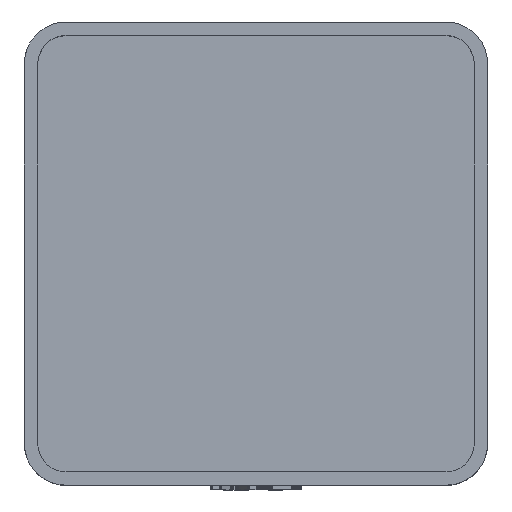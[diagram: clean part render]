
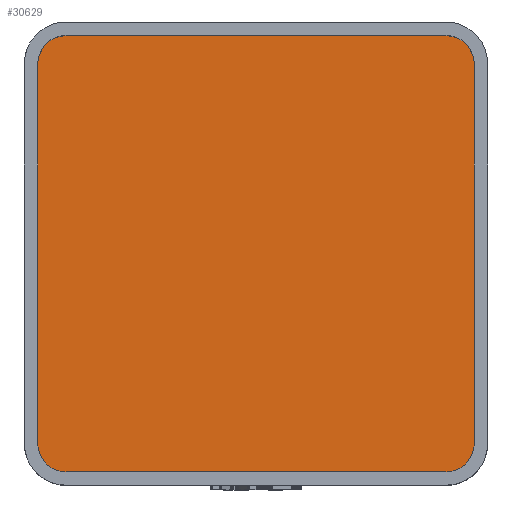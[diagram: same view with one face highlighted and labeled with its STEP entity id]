
A CAD part, top view. The second image highlights one B-rep face of the part: STEP entity #30629.
In plain terms, the highlighted planar face has unit normal (0, 0, 1).
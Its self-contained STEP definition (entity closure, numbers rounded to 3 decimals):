
#1442 = PLANE('',#1443);
#1443 = AXIS2_PLACEMENT_3D('',#1444,#1445,#1446);
#1444 = CARTESIAN_POINT('',(-19.55,-17.,4.75));
#1445 = DIRECTION('',(-1.,0.,0.));
#1446 = DIRECTION('',(0.,1.,0.));
#1474 = CYLINDRICAL_SURFACE('',#1475,2.55);
#1475 = AXIS2_PLACEMENT_3D('',#1476,#1477,#1478);
#1476 = CARTESIAN_POINT('',(-17.,17.,4.75));
#1477 = DIRECTION('',(-0.,-0.,-1.));
#1478 = DIRECTION('',(1.,0.,0.));
#1501 = PLANE('',#1502);
#1502 = AXIS2_PLACEMENT_3D('',#1503,#1504,#1505);
#1503 = CARTESIAN_POINT('',(-17.,19.55,4.75));
#1504 = DIRECTION('',(0.,1.,0.));
#1505 = DIRECTION('',(1.,0.,0.));
#1533 = CYLINDRICAL_SURFACE('',#1534,2.55);
#1534 = AXIS2_PLACEMENT_3D('',#1535,#1536,#1537);
#1535 = CARTESIAN_POINT('',(17.,17.,4.75));
#1536 = DIRECTION('',(-0.,-0.,-1.));
#1537 = DIRECTION('',(1.,0.,0.));
#1560 = PLANE('',#1561);
#1561 = AXIS2_PLACEMENT_3D('',#1562,#1563,#1564);
#1562 = CARTESIAN_POINT('',(19.55,-17.,4.75));
#1563 = DIRECTION('',(-1.,0.,0.));
#1564 = DIRECTION('',(0.,1.,0.));
#1592 = CYLINDRICAL_SURFACE('',#1593,2.55);
#1593 = AXIS2_PLACEMENT_3D('',#1594,#1595,#1596);
#1594 = CARTESIAN_POINT('',(17.,-17.,4.75));
#1595 = DIRECTION('',(-0.,-0.,-1.));
#1596 = DIRECTION('',(1.,0.,0.));
#1619 = PLANE('',#1620);
#1620 = AXIS2_PLACEMENT_3D('',#1621,#1622,#1623);
#1621 = CARTESIAN_POINT('',(-17.,-19.55,4.75));
#1622 = DIRECTION('',(0.,1.,0.));
#1623 = DIRECTION('',(1.,0.,0.));
#1649 = CYLINDRICAL_SURFACE('',#1650,2.55);
#1650 = AXIS2_PLACEMENT_3D('',#1651,#1652,#1653);
#1651 = CARTESIAN_POINT('',(-17.,-17.,4.75));
#1652 = DIRECTION('',(-0.,-0.,-1.));
#1653 = DIRECTION('',(1.,0.,0.));
#11641 = EDGE_CURVE('',#11642,#11644,#11646,.T.);
#11642 = VERTEX_POINT('',#11643);
#11643 = CARTESIAN_POINT('',(-19.55,-17.,4.75));
#11644 = VERTEX_POINT('',#11645);
#11645 = CARTESIAN_POINT('',(-19.55,17.,4.75));
#11646 = SURFACE_CURVE('',#11647,(#11651,#11658),.PCURVE_S1.);
#11647 = LINE('',#11648,#11649);
#11648 = CARTESIAN_POINT('',(-19.55,0.,4.75));
#11649 = VECTOR('',#11650,1.);
#11650 = DIRECTION('',(0.,1.,0.));
#11651 = PCURVE('',#1442,#11652);
#11652 = DEFINITIONAL_REPRESENTATION('',(#11653),#11657);
#11653 = LINE('',#11654,#11655);
#11654 = CARTESIAN_POINT('',(17.,0.));
#11655 = VECTOR('',#11656,1.);
#11656 = DIRECTION('',(1.,0.));
#11657 = ( GEOMETRIC_REPRESENTATION_CONTEXT(2) 
PARAMETRIC_REPRESENTATION_CONTEXT() REPRESENTATION_CONTEXT('2D SPACE',''
  ) );
#11658 = PCURVE('',#11659,#11664);
#11659 = PLANE('',#11660);
#11660 = AXIS2_PLACEMENT_3D('',#11661,#11662,#11663);
#11661 = CARTESIAN_POINT('',(0.,0.,4.75
    ));
#11662 = DIRECTION('',(0.,0.,1.));
#11663 = DIRECTION('',(1.,0.,-0.));
#11664 = DEFINITIONAL_REPRESENTATION('',(#11665),#11669);
#11665 = LINE('',#11666,#11667);
#11666 = CARTESIAN_POINT('',(-19.55,0.));
#11667 = VECTOR('',#11668,1.);
#11668 = DIRECTION('',(0.,1.));
#11669 = ( GEOMETRIC_REPRESENTATION_CONTEXT(2) 
PARAMETRIC_REPRESENTATION_CONTEXT() REPRESENTATION_CONTEXT('2D SPACE',''
  ) );
#11717 = EDGE_CURVE('',#11642,#11718,#11720,.T.);
#11718 = VERTEX_POINT('',#11719);
#11719 = CARTESIAN_POINT('',(-17.,-19.55,4.75));
#11720 = SURFACE_CURVE('',#11721,(#11726,#11733),.PCURVE_S1.);
#11721 = CIRCLE('',#11722,2.55);
#11722 = AXIS2_PLACEMENT_3D('',#11723,#11724,#11725);
#11723 = CARTESIAN_POINT('',(-17.,-17.,4.75));
#11724 = DIRECTION('',(0.,0.,1.));
#11725 = DIRECTION('',(1.,0.,0.));
#11726 = PCURVE('',#1649,#11727);
#11727 = DEFINITIONAL_REPRESENTATION('',(#11728),#11732);
#11728 = LINE('',#11729,#11730);
#11729 = CARTESIAN_POINT('',(-0.,0.));
#11730 = VECTOR('',#11731,1.);
#11731 = DIRECTION('',(-1.,0.));
#11732 = ( GEOMETRIC_REPRESENTATION_CONTEXT(2) 
PARAMETRIC_REPRESENTATION_CONTEXT() REPRESENTATION_CONTEXT('2D SPACE',''
  ) );
#11733 = PCURVE('',#11659,#11734);
#11734 = DEFINITIONAL_REPRESENTATION('',(#11735),#11739);
#11735 = CIRCLE('',#11736,2.55);
#11736 = AXIS2_PLACEMENT_2D('',#11737,#11738);
#11737 = CARTESIAN_POINT('',(-17.,-17.));
#11738 = DIRECTION('',(1.,0.));
#11739 = ( GEOMETRIC_REPRESENTATION_CONTEXT(2) 
PARAMETRIC_REPRESENTATION_CONTEXT() REPRESENTATION_CONTEXT('2D SPACE',''
  ) );
#11767 = EDGE_CURVE('',#11718,#11768,#11770,.T.);
#11768 = VERTEX_POINT('',#11769);
#11769 = CARTESIAN_POINT('',(17.,-19.55,4.75));
#11770 = SURFACE_CURVE('',#11771,(#11775,#11782),.PCURVE_S1.);
#11771 = LINE('',#11772,#11773);
#11772 = CARTESIAN_POINT('',(0.,-19.55,4.75));
#11773 = VECTOR('',#11774,1.);
#11774 = DIRECTION('',(1.,0.,0.));
#11775 = PCURVE('',#1619,#11776);
#11776 = DEFINITIONAL_REPRESENTATION('',(#11777),#11781);
#11777 = LINE('',#11778,#11779);
#11778 = CARTESIAN_POINT('',(17.,0.));
#11779 = VECTOR('',#11780,1.);
#11780 = DIRECTION('',(1.,0.));
#11781 = ( GEOMETRIC_REPRESENTATION_CONTEXT(2) 
PARAMETRIC_REPRESENTATION_CONTEXT() REPRESENTATION_CONTEXT('2D SPACE',''
  ) );
#11782 = PCURVE('',#11659,#11783);
#11783 = DEFINITIONAL_REPRESENTATION('',(#11784),#11788);
#11784 = LINE('',#11785,#11786);
#11785 = CARTESIAN_POINT('',(0.,-19.55));
#11786 = VECTOR('',#11787,1.);
#11787 = DIRECTION('',(1.,0.));
#11788 = ( GEOMETRIC_REPRESENTATION_CONTEXT(2) 
PARAMETRIC_REPRESENTATION_CONTEXT() REPRESENTATION_CONTEXT('2D SPACE',''
  ) );
#11816 = EDGE_CURVE('',#11768,#11817,#11819,.T.);
#11817 = VERTEX_POINT('',#11818);
#11818 = CARTESIAN_POINT('',(19.55,-17.,4.75));
#11819 = SURFACE_CURVE('',#11820,(#11825,#11832),.PCURVE_S1.);
#11820 = CIRCLE('',#11821,2.55);
#11821 = AXIS2_PLACEMENT_3D('',#11822,#11823,#11824);
#11822 = CARTESIAN_POINT('',(17.,-17.,4.75));
#11823 = DIRECTION('',(0.,0.,1.));
#11824 = DIRECTION('',(1.,0.,0.));
#11825 = PCURVE('',#1592,#11826);
#11826 = DEFINITIONAL_REPRESENTATION('',(#11827),#11831);
#11827 = LINE('',#11828,#11829);
#11828 = CARTESIAN_POINT('',(-0.,0.));
#11829 = VECTOR('',#11830,1.);
#11830 = DIRECTION('',(-1.,0.));
#11831 = ( GEOMETRIC_REPRESENTATION_CONTEXT(2) 
PARAMETRIC_REPRESENTATION_CONTEXT() REPRESENTATION_CONTEXT('2D SPACE',''
  ) );
#11832 = PCURVE('',#11659,#11833);
#11833 = DEFINITIONAL_REPRESENTATION('',(#11834),#11838);
#11834 = CIRCLE('',#11835,2.55);
#11835 = AXIS2_PLACEMENT_2D('',#11836,#11837);
#11836 = CARTESIAN_POINT('',(17.,-17.));
#11837 = DIRECTION('',(1.,0.));
#11838 = ( GEOMETRIC_REPRESENTATION_CONTEXT(2) 
PARAMETRIC_REPRESENTATION_CONTEXT() REPRESENTATION_CONTEXT('2D SPACE',''
  ) );
#11866 = EDGE_CURVE('',#11817,#11867,#11869,.T.);
#11867 = VERTEX_POINT('',#11868);
#11868 = CARTESIAN_POINT('',(19.55,17.,4.75));
#11869 = SURFACE_CURVE('',#11870,(#11874,#11881),.PCURVE_S1.);
#11870 = LINE('',#11871,#11872);
#11871 = CARTESIAN_POINT('',(19.55,0.,4.75));
#11872 = VECTOR('',#11873,1.);
#11873 = DIRECTION('',(0.,1.,0.));
#11874 = PCURVE('',#1560,#11875);
#11875 = DEFINITIONAL_REPRESENTATION('',(#11876),#11880);
#11876 = LINE('',#11877,#11878);
#11877 = CARTESIAN_POINT('',(17.,0.));
#11878 = VECTOR('',#11879,1.);
#11879 = DIRECTION('',(1.,0.));
#11880 = ( GEOMETRIC_REPRESENTATION_CONTEXT(2) 
PARAMETRIC_REPRESENTATION_CONTEXT() REPRESENTATION_CONTEXT('2D SPACE',''
  ) );
#11881 = PCURVE('',#11659,#11882);
#11882 = DEFINITIONAL_REPRESENTATION('',(#11883),#11887);
#11883 = LINE('',#11884,#11885);
#11884 = CARTESIAN_POINT('',(19.55,0.));
#11885 = VECTOR('',#11886,1.);
#11886 = DIRECTION('',(0.,1.));
#11887 = ( GEOMETRIC_REPRESENTATION_CONTEXT(2) 
PARAMETRIC_REPRESENTATION_CONTEXT() REPRESENTATION_CONTEXT('2D SPACE',''
  ) );
#11915 = EDGE_CURVE('',#11867,#11916,#11918,.T.);
#11916 = VERTEX_POINT('',#11917);
#11917 = CARTESIAN_POINT('',(17.,19.55,4.75));
#11918 = SURFACE_CURVE('',#11919,(#11924,#11931),.PCURVE_S1.);
#11919 = CIRCLE('',#11920,2.55);
#11920 = AXIS2_PLACEMENT_3D('',#11921,#11922,#11923);
#11921 = CARTESIAN_POINT('',(17.,17.,4.75));
#11922 = DIRECTION('',(0.,0.,1.));
#11923 = DIRECTION('',(1.,0.,0.));
#11924 = PCURVE('',#1533,#11925);
#11925 = DEFINITIONAL_REPRESENTATION('',(#11926),#11930);
#11926 = LINE('',#11927,#11928);
#11927 = CARTESIAN_POINT('',(-0.,0.));
#11928 = VECTOR('',#11929,1.);
#11929 = DIRECTION('',(-1.,0.));
#11930 = ( GEOMETRIC_REPRESENTATION_CONTEXT(2) 
PARAMETRIC_REPRESENTATION_CONTEXT() REPRESENTATION_CONTEXT('2D SPACE',''
  ) );
#11931 = PCURVE('',#11659,#11932);
#11932 = DEFINITIONAL_REPRESENTATION('',(#11933),#11937);
#11933 = CIRCLE('',#11934,2.55);
#11934 = AXIS2_PLACEMENT_2D('',#11935,#11936);
#11935 = CARTESIAN_POINT('',(17.,17.));
#11936 = DIRECTION('',(1.,0.));
#11937 = ( GEOMETRIC_REPRESENTATION_CONTEXT(2) 
PARAMETRIC_REPRESENTATION_CONTEXT() REPRESENTATION_CONTEXT('2D SPACE',''
  ) );
#11965 = EDGE_CURVE('',#11966,#11916,#11968,.T.);
#11966 = VERTEX_POINT('',#11967);
#11967 = CARTESIAN_POINT('',(-17.,19.55,4.75));
#11968 = SURFACE_CURVE('',#11969,(#11973,#11980),.PCURVE_S1.);
#11969 = LINE('',#11970,#11971);
#11970 = CARTESIAN_POINT('',(0.,19.55,4.75));
#11971 = VECTOR('',#11972,1.);
#11972 = DIRECTION('',(1.,0.,0.));
#11973 = PCURVE('',#1501,#11974);
#11974 = DEFINITIONAL_REPRESENTATION('',(#11975),#11979);
#11975 = LINE('',#11976,#11977);
#11976 = CARTESIAN_POINT('',(17.,0.));
#11977 = VECTOR('',#11978,1.);
#11978 = DIRECTION('',(1.,0.));
#11979 = ( GEOMETRIC_REPRESENTATION_CONTEXT(2) 
PARAMETRIC_REPRESENTATION_CONTEXT() REPRESENTATION_CONTEXT('2D SPACE',''
  ) );
#11980 = PCURVE('',#11659,#11981);
#11981 = DEFINITIONAL_REPRESENTATION('',(#11982),#11986);
#11982 = LINE('',#11983,#11984);
#11983 = CARTESIAN_POINT('',(0.,19.55));
#11984 = VECTOR('',#11985,1.);
#11985 = DIRECTION('',(1.,0.));
#11986 = ( GEOMETRIC_REPRESENTATION_CONTEXT(2) 
PARAMETRIC_REPRESENTATION_CONTEXT() REPRESENTATION_CONTEXT('2D SPACE',''
  ) );
#12014 = EDGE_CURVE('',#11966,#11644,#12015,.T.);
#12015 = SURFACE_CURVE('',#12016,(#12021,#12028),.PCURVE_S1.);
#12016 = CIRCLE('',#12017,2.55);
#12017 = AXIS2_PLACEMENT_3D('',#12018,#12019,#12020);
#12018 = CARTESIAN_POINT('',(-17.,17.,4.75));
#12019 = DIRECTION('',(0.,0.,1.));
#12020 = DIRECTION('',(1.,0.,0.));
#12021 = PCURVE('',#1474,#12022);
#12022 = DEFINITIONAL_REPRESENTATION('',(#12023),#12027);
#12023 = LINE('',#12024,#12025);
#12024 = CARTESIAN_POINT('',(-0.,0.));
#12025 = VECTOR('',#12026,1.);
#12026 = DIRECTION('',(-1.,0.));
#12027 = ( GEOMETRIC_REPRESENTATION_CONTEXT(2) 
PARAMETRIC_REPRESENTATION_CONTEXT() REPRESENTATION_CONTEXT('2D SPACE',''
  ) );
#12028 = PCURVE('',#11659,#12029);
#12029 = DEFINITIONAL_REPRESENTATION('',(#12030),#12034);
#12030 = CIRCLE('',#12031,2.55);
#12031 = AXIS2_PLACEMENT_2D('',#12032,#12033);
#12032 = CARTESIAN_POINT('',(-17.,17.));
#12033 = DIRECTION('',(1.,0.));
#12034 = ( GEOMETRIC_REPRESENTATION_CONTEXT(2) 
PARAMETRIC_REPRESENTATION_CONTEXT() REPRESENTATION_CONTEXT('2D SPACE',''
  ) );
#30629 = ADVANCED_FACE('',(#30630),#11659,.T.);
#30630 = FACE_BOUND('',#30631,.T.);
#30631 = EDGE_LOOP('',(#30632,#30633,#30634,#30635,#30636,#30637,#30638,
    #30639));
#30632 = ORIENTED_EDGE('',*,*,#11641,.F.);
#30633 = ORIENTED_EDGE('',*,*,#11717,.T.);
#30634 = ORIENTED_EDGE('',*,*,#11767,.T.);
#30635 = ORIENTED_EDGE('',*,*,#11816,.T.);
#30636 = ORIENTED_EDGE('',*,*,#11866,.T.);
#30637 = ORIENTED_EDGE('',*,*,#11915,.T.);
#30638 = ORIENTED_EDGE('',*,*,#11965,.F.);
#30639 = ORIENTED_EDGE('',*,*,#12014,.T.);
